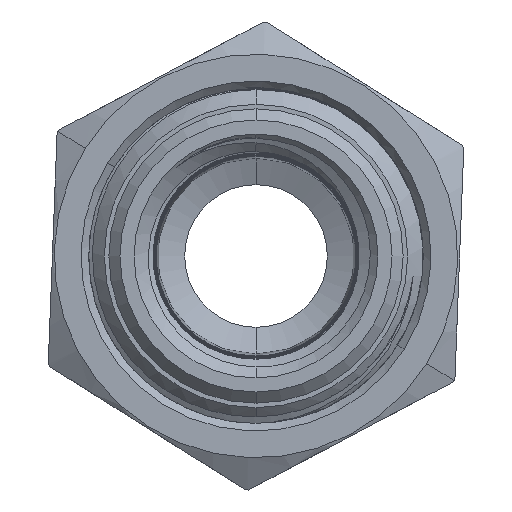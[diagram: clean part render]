
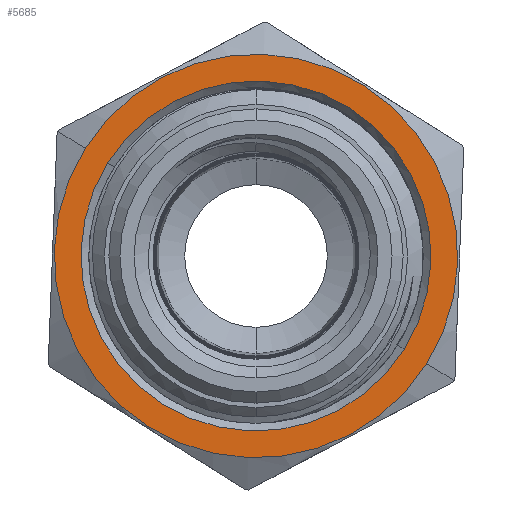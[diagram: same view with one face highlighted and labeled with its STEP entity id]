
A CAD part, left-side view. The second image highlights one B-rep face of the part: STEP entity #5685.
In plain terms, the highlighted planar face has unit normal (-1, 0, 0).
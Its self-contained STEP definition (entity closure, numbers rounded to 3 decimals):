
#526 = EDGE_CURVE('',#527,#529,#531,.T.);
#527 = VERTEX_POINT('',#528);
#528 = CARTESIAN_POINT('',(-48.4,21.115,
    29.005));
#529 = VERTEX_POINT('',#530);
#530 = CARTESIAN_POINT('',(-48.4,-9.523,9.724
    ));
#531 = SURFACE_CURVE('',#532,(#537,#549),.PCURVE_S1.);
#532 = CIRCLE('',#533,18.1);
#533 = AXIS2_PLACEMENT_3D('',#534,#535,#536);
#534 = CARTESIAN_POINT('',(-48.4,5.796,
    19.365));
#535 = DIRECTION('',(-1.,0.,0.));
#536 = DIRECTION('',(0.,0.846,0.533));
#537 = PCURVE('',#538,#543);
#538 = CONICAL_SURFACE('',#539,18.1,1.047);
#539 = AXIS2_PLACEMENT_3D('',#540,#541,#542);
#540 = CARTESIAN_POINT('',(-48.4,5.796,
    19.365));
#541 = DIRECTION('',(1.,0.,0.));
#542 = DIRECTION('',(0.,-0.846,-0.533)
  );
#543 = DEFINITIONAL_REPRESENTATION('',(#544),#548);
#544 = LINE('',#545,#546);
#545 = CARTESIAN_POINT('',(3.142,0.));
#546 = VECTOR('',#547,1.);
#547 = DIRECTION('',(-1.,0.));
#548 = ( GEOMETRIC_REPRESENTATION_CONTEXT(2) 
PARAMETRIC_REPRESENTATION_CONTEXT() REPRESENTATION_CONTEXT('2D SPACE',''
  ) );
#549 = PCURVE('',#550,#555);
#550 = PLANE('',#551);
#551 = AXIS2_PLACEMENT_3D('',#552,#553,#554);
#552 = CARTESIAN_POINT('',(-48.4,16.981,1.591
    ));
#553 = DIRECTION('',(1.,0.,0.));
#554 = DIRECTION('',(0.,-0.846,-0.533)
  );
#555 = DEFINITIONAL_REPRESENTATION('',(#556),#564);
#556 = ( BOUNDED_CURVE() B_SPLINE_CURVE(2,(#557,#558,#559,#560,#561,#562
,#563),.UNSPECIFIED.,.T.,.F.) B_SPLINE_CURVE_WITH_KNOTS((1,2,2,2,2,1),(
    -2.094,0.,2.094,4.189,6.283,
8.378),.UNSPECIFIED.) CURVE() GEOMETRIC_REPRESENTATION_ITEM() 
RATIONAL_B_SPLINE_CURVE((1.,0.5,1.,0.5,1.,0.5,1.)) REPRESENTATION_ITEM(
  '') );
#557 = CARTESIAN_POINT('',(-18.1,-21.));
#558 = CARTESIAN_POINT('',(-18.1,10.35));
#559 = CARTESIAN_POINT('',(9.05,-5.325));
#560 = CARTESIAN_POINT('',(36.2,-21.));
#561 = CARTESIAN_POINT('',(9.05,-36.675));
#562 = CARTESIAN_POINT('',(-18.1,-52.35));
#563 = CARTESIAN_POINT('',(-18.1,-21.));
#564 = ( GEOMETRIC_REPRESENTATION_CONTEXT(2) 
PARAMETRIC_REPRESENTATION_CONTEXT() REPRESENTATION_CONTEXT('2D SPACE',''
  ) );
#582 = CONICAL_SURFACE('',#583,18.1,1.047);
#583 = AXIS2_PLACEMENT_3D('',#584,#585,#586);
#584 = CARTESIAN_POINT('',(-48.4,5.796,
    19.365));
#585 = DIRECTION('',(1.,0.,0.));
#586 = DIRECTION('',(0.,-0.846,-0.533)
  );
#1392 = CONICAL_SURFACE('',#1393,14.3,0.785);
#1393 = AXIS2_PLACEMENT_3D('',#1394,#1395,#1396);
#1394 = CARTESIAN_POINT('',(-47.,5.796,
    19.365));
#1395 = DIRECTION('',(-1.,0.,0.));
#1396 = DIRECTION('',(0.,0.846,0.533)
  );
#1816 = VERTEX_POINT('',#1817);
#1817 = CARTESIAN_POINT('',(-48.4,19.084,
    27.727));
#1831 = CONICAL_SURFACE('',#1832,14.3,0.785);
#1832 = AXIS2_PLACEMENT_3D('',#1833,#1834,#1835);
#1833 = CARTESIAN_POINT('',(-47.,5.796,
    19.365));
#1834 = DIRECTION('',(-1.,0.,0.));
#1835 = DIRECTION('',(0.,0.846,0.533)
  );
#1843 = EDGE_CURVE('',#1816,#1844,#1846,.T.);
#1844 = VERTEX_POINT('',#1845);
#1845 = CARTESIAN_POINT('',(-48.4,-7.492,
    11.002));
#1846 = SURFACE_CURVE('',#1847,(#1852,#1859),.PCURVE_S1.);
#1847 = CIRCLE('',#1848,15.7);
#1848 = AXIS2_PLACEMENT_3D('',#1849,#1850,#1851);
#1849 = CARTESIAN_POINT('',(-48.4,5.796,
    19.365));
#1850 = DIRECTION('',(1.,0.,0.));
#1851 = DIRECTION('',(0.,-0.846,-0.533)
  );
#1852 = PCURVE('',#1392,#1853);
#1853 = DEFINITIONAL_REPRESENTATION('',(#1854),#1858);
#1854 = LINE('',#1855,#1856);
#1855 = CARTESIAN_POINT('',(9.425,1.4));
#1856 = VECTOR('',#1857,1.);
#1857 = DIRECTION('',(-1.,0.));
#1858 = ( GEOMETRIC_REPRESENTATION_CONTEXT(2) 
PARAMETRIC_REPRESENTATION_CONTEXT() REPRESENTATION_CONTEXT('2D SPACE',''
  ) );
#1859 = PCURVE('',#550,#1860);
#1860 = DEFINITIONAL_REPRESENTATION('',(#1861),#1865);
#1861 = CIRCLE('',#1862,15.7);
#1862 = AXIS2_PLACEMENT_2D('',#1863,#1864);
#1863 = CARTESIAN_POINT('',(0.,-21.));
#1864 = DIRECTION('',(1.,0.));
#1865 = ( GEOMETRIC_REPRESENTATION_CONTEXT(2) 
PARAMETRIC_REPRESENTATION_CONTEXT() REPRESENTATION_CONTEXT('2D SPACE',''
  ) );
#5685 = ADVANCED_FACE('',(#5686,#5711),#550,.F.);
#5686 = FACE_BOUND('',#5687,.T.);
#5687 = EDGE_LOOP('',(#5688,#5689));
#5688 = ORIENTED_EDGE('',*,*,#1843,.T.);
#5689 = ORIENTED_EDGE('',*,*,#5690,.T.);
#5690 = EDGE_CURVE('',#1844,#1816,#5691,.T.);
#5691 = SURFACE_CURVE('',#5692,(#5697,#5704),.PCURVE_S1.);
#5692 = CIRCLE('',#5693,15.7);
#5693 = AXIS2_PLACEMENT_3D('',#5694,#5695,#5696);
#5694 = CARTESIAN_POINT('',(-48.4,5.796,
    19.365));
#5695 = DIRECTION('',(1.,0.,0.));
#5696 = DIRECTION('',(0.,-0.846,-0.533)
  );
#5697 = PCURVE('',#550,#5698);
#5698 = DEFINITIONAL_REPRESENTATION('',(#5699),#5703);
#5699 = CIRCLE('',#5700,15.7);
#5700 = AXIS2_PLACEMENT_2D('',#5701,#5702);
#5701 = CARTESIAN_POINT('',(0.,-21.));
#5702 = DIRECTION('',(1.,0.));
#5703 = ( GEOMETRIC_REPRESENTATION_CONTEXT(2) 
PARAMETRIC_REPRESENTATION_CONTEXT() REPRESENTATION_CONTEXT('2D SPACE',''
  ) );
#5704 = PCURVE('',#1831,#5705);
#5705 = DEFINITIONAL_REPRESENTATION('',(#5706),#5710);
#5706 = LINE('',#5707,#5708);
#5707 = CARTESIAN_POINT('',(3.142,1.4));
#5708 = VECTOR('',#5709,1.);
#5709 = DIRECTION('',(-1.,0.));
#5710 = ( GEOMETRIC_REPRESENTATION_CONTEXT(2) 
PARAMETRIC_REPRESENTATION_CONTEXT() REPRESENTATION_CONTEXT('2D SPACE',''
  ) );
#5711 = FACE_BOUND('',#5712,.T.);
#5712 = EDGE_LOOP('',(#5713,#5739));
#5713 = ORIENTED_EDGE('',*,*,#5714,.T.);
#5714 = EDGE_CURVE('',#529,#527,#5715,.T.);
#5715 = SURFACE_CURVE('',#5716,(#5721,#5732),.PCURVE_S1.);
#5716 = CIRCLE('',#5717,18.1);
#5717 = AXIS2_PLACEMENT_3D('',#5718,#5719,#5720);
#5718 = CARTESIAN_POINT('',(-48.4,5.796,
    19.365));
#5719 = DIRECTION('',(-1.,0.,0.));
#5720 = DIRECTION('',(0.,0.846,0.533)
  );
#5721 = PCURVE('',#550,#5722);
#5722 = DEFINITIONAL_REPRESENTATION('',(#5723),#5731);
#5723 = ( BOUNDED_CURVE() B_SPLINE_CURVE(2,(#5724,#5725,#5726,#5727,
#5728,#5729,#5730),.UNSPECIFIED.,.T.,.F.) B_SPLINE_CURVE_WITH_KNOTS((1,2
    ,2,2,2,1),(-2.094,0.,2.094,4.189,
6.283,8.378),.UNSPECIFIED.) CURVE() 
GEOMETRIC_REPRESENTATION_ITEM() RATIONAL_B_SPLINE_CURVE((1.,0.5,1.,0.5,
1.,0.5,1.)) REPRESENTATION_ITEM('') );
#5724 = CARTESIAN_POINT('',(-18.1,-21.));
#5725 = CARTESIAN_POINT('',(-18.1,10.35));
#5726 = CARTESIAN_POINT('',(9.05,-5.325));
#5727 = CARTESIAN_POINT('',(36.2,-21.));
#5728 = CARTESIAN_POINT('',(9.05,-36.675));
#5729 = CARTESIAN_POINT('',(-18.1,-52.35));
#5730 = CARTESIAN_POINT('',(-18.1,-21.));
#5731 = ( GEOMETRIC_REPRESENTATION_CONTEXT(2) 
PARAMETRIC_REPRESENTATION_CONTEXT() REPRESENTATION_CONTEXT('2D SPACE',''
  ) );
#5732 = PCURVE('',#582,#5733);
#5733 = DEFINITIONAL_REPRESENTATION('',(#5734),#5738);
#5734 = LINE('',#5735,#5736);
#5735 = CARTESIAN_POINT('',(9.425,0.));
#5736 = VECTOR('',#5737,1.);
#5737 = DIRECTION('',(-1.,0.));
#5738 = ( GEOMETRIC_REPRESENTATION_CONTEXT(2) 
PARAMETRIC_REPRESENTATION_CONTEXT() REPRESENTATION_CONTEXT('2D SPACE',''
  ) );
#5739 = ORIENTED_EDGE('',*,*,#526,.T.);
